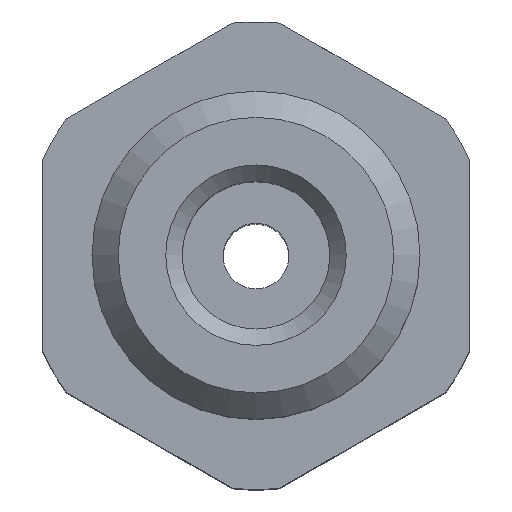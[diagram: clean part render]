
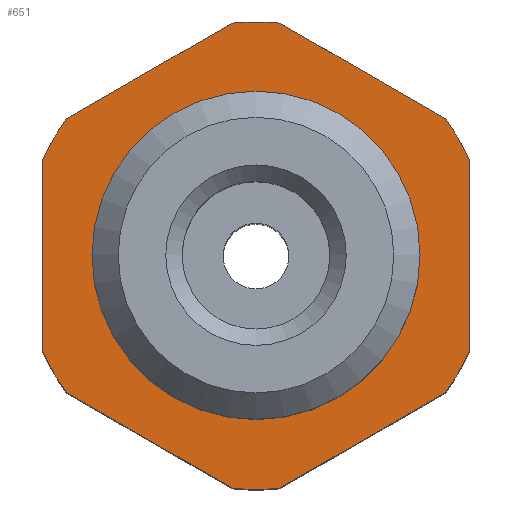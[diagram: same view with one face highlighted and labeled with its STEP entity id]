
A CAD part, top view. The second image highlights one B-rep face of the part: STEP entity #651.
In plain terms, the highlighted planar face has unit normal (0, 0, 1).
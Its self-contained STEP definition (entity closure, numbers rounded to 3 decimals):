
#226=CARTESIAN_POINT('',(1.446,-14.176,0.0));
#227=VERTEX_POINT('',#226);
#263=CARTESIAN_POINT('',(11.554,-8.34,0.0));
#264=VERTEX_POINT('',#263);
#271=CARTESIAN_POINT('',(11.554,-8.34,0.0));
#272=DIRECTION('',(-0.866,-0.5,0.0));
#273=VECTOR('',#272,11.673);
#274=LINE('',#271,#273);
#275=EDGE_CURVE('',#264,#227,#274,.T.);
#287=CARTESIAN_POINT('',(-11.554,-8.34,0.0));
#288=VERTEX_POINT('',#287);
#324=CARTESIAN_POINT('',(-1.446,-14.176,0.0));
#325=VERTEX_POINT('',#324);
#332=CARTESIAN_POINT('',(-1.446,-14.176,0.0));
#333=DIRECTION('',(-0.866,0.5,0.0));
#334=VECTOR('',#333,11.673);
#335=LINE('',#332,#334);
#336=EDGE_CURVE('',#325,#288,#335,.T.);
#348=CARTESIAN_POINT('',(-13.,5.836,0.0));
#349=VERTEX_POINT('',#348);
#385=CARTESIAN_POINT('',(-13.,-5.836,0.0));
#386=VERTEX_POINT('',#385);
#393=CARTESIAN_POINT('',(-13.,-5.836,0.0));
#394=DIRECTION('',(0.0,1.0,0.0));
#395=VECTOR('',#394,11.673);
#396=LINE('',#393,#395);
#397=EDGE_CURVE('',#386,#349,#396,.T.);
#409=CARTESIAN_POINT('',(-1.446,14.176,0.0));
#410=VERTEX_POINT('',#409);
#446=CARTESIAN_POINT('',(-11.554,8.34,0.0));
#447=VERTEX_POINT('',#446);
#454=CARTESIAN_POINT('',(-11.554,8.34,0.0));
#455=DIRECTION('',(0.866,0.5,0.0));
#456=VECTOR('',#455,11.673);
#457=LINE('',#454,#456);
#458=EDGE_CURVE('',#447,#410,#457,.T.);
#470=CARTESIAN_POINT('',(11.554,8.34,0.0));
#471=VERTEX_POINT('',#470);
#507=CARTESIAN_POINT('',(1.446,14.176,0.0));
#508=VERTEX_POINT('',#507);
#515=CARTESIAN_POINT('',(1.446,14.176,0.0));
#516=DIRECTION('',(0.866,-0.5,0.0));
#517=VECTOR('',#516,11.673);
#518=LINE('',#515,#517);
#519=EDGE_CURVE('',#508,#471,#518,.T.);
#531=CARTESIAN_POINT('',(13.,-5.836,0.0));
#532=VERTEX_POINT('',#531);
#568=CARTESIAN_POINT('',(13.,5.836,0.0));
#569=VERTEX_POINT('',#568);
#576=CARTESIAN_POINT('',(13.,5.836,0.0));
#577=DIRECTION('',(0.0,-1.0,0.0));
#578=VECTOR('',#577,11.673);
#579=LINE('',#576,#578);
#580=EDGE_CURVE('',#569,#532,#579,.T.);
#585=CARTESIAN_POINT('',(0.0,0.0,0.0));
#586=DIRECTION('',(0.0,0.0,-1.0));
#587=DIRECTION('',(1.0,0.0,0.0));
#588=AXIS2_PLACEMENT_3D('',#585,#586,#587);
#589=PLANE('',#588);
#590=CARTESIAN_POINT('',(0.0,0.0,0.0));
#591=DIRECTION('',(0.0,0.0,-1.0));
#592=DIRECTION('',(1.0,0.0,0.0));
#593=AXIS2_PLACEMENT_3D('',#590,#591,#592);
#594=CIRCLE('',#593,14.25);
#595=EDGE_CURVE('',#532,#264,#594,.T.);
#596=ORIENTED_EDGE('',*,*,#595,.F.);
#597=ORIENTED_EDGE('',*,*,#580,.F.);
#598=CARTESIAN_POINT('',(0.0,0.0,0.0));
#599=DIRECTION('',(0.0,0.0,-1.0));
#600=DIRECTION('',(1.0,0.0,0.0));
#601=AXIS2_PLACEMENT_3D('',#598,#599,#600);
#602=CIRCLE('',#601,14.25);
#603=EDGE_CURVE('',#471,#569,#602,.T.);
#604=ORIENTED_EDGE('',*,*,#603,.F.);
#605=ORIENTED_EDGE('',*,*,#519,.F.);
#606=CARTESIAN_POINT('',(0.0,0.0,0.0));
#607=DIRECTION('',(0.0,0.0,-1.0));
#608=DIRECTION('',(1.0,0.0,0.0));
#609=AXIS2_PLACEMENT_3D('',#606,#607,#608);
#610=CIRCLE('',#609,14.25);
#611=EDGE_CURVE('',#410,#508,#610,.T.);
#612=ORIENTED_EDGE('',*,*,#611,.F.);
#613=ORIENTED_EDGE('',*,*,#458,.F.);
#614=CARTESIAN_POINT('',(0.0,0.0,0.0));
#615=DIRECTION('',(0.0,0.0,-1.0));
#616=DIRECTION('',(1.0,0.0,0.0));
#617=AXIS2_PLACEMENT_3D('',#614,#615,#616);
#618=CIRCLE('',#617,14.25);
#619=EDGE_CURVE('',#349,#447,#618,.T.);
#620=ORIENTED_EDGE('',*,*,#619,.F.);
#621=ORIENTED_EDGE('',*,*,#397,.F.);
#622=CARTESIAN_POINT('',(0.0,0.0,0.0));
#623=DIRECTION('',(0.0,0.0,-1.0));
#624=DIRECTION('',(1.0,0.0,0.0));
#625=AXIS2_PLACEMENT_3D('',#622,#623,#624);
#626=CIRCLE('',#625,14.25);
#627=EDGE_CURVE('',#288,#386,#626,.T.);
#628=ORIENTED_EDGE('',*,*,#627,.F.);
#629=ORIENTED_EDGE('',*,*,#336,.F.);
#630=CARTESIAN_POINT('',(0.0,0.0,0.0));
#631=DIRECTION('',(0.0,0.0,-1.0));
#632=DIRECTION('',(1.0,0.0,0.0));
#633=AXIS2_PLACEMENT_3D('',#630,#631,#632);
#634=CIRCLE('',#633,14.25);
#635=EDGE_CURVE('',#227,#325,#634,.T.);
#636=ORIENTED_EDGE('',*,*,#635,.F.);
#637=ORIENTED_EDGE('',*,*,#275,.F.);
#638=EDGE_LOOP('',(#596,#597,#604,#605,#612,#613,#620,#621,#628,#629,#636,#637));
#639=FACE_OUTER_BOUND('',#638,.T.);
#640=CARTESIAN_POINT('',(-9.,0.0,0.0));
#641=VERTEX_POINT('',#640);
#642=CARTESIAN_POINT('',(0.0,0.0,0.0));
#643=DIRECTION('',(0.0,0.0,1.0));
#644=DIRECTION('',(-1.0,0.0,0.0));
#645=AXIS2_PLACEMENT_3D('',#642,#643,#644);
#646=CIRCLE('',#645,9.);
#647=EDGE_CURVE('',#641,#641,#646,.T.);
#648=ORIENTED_EDGE('',*,*,#647,.F.);
#649=EDGE_LOOP('',(#648));
#650=FACE_BOUND('',#649,.T.);
#651=ADVANCED_FACE('',(#639,#650),#589,.F.);
